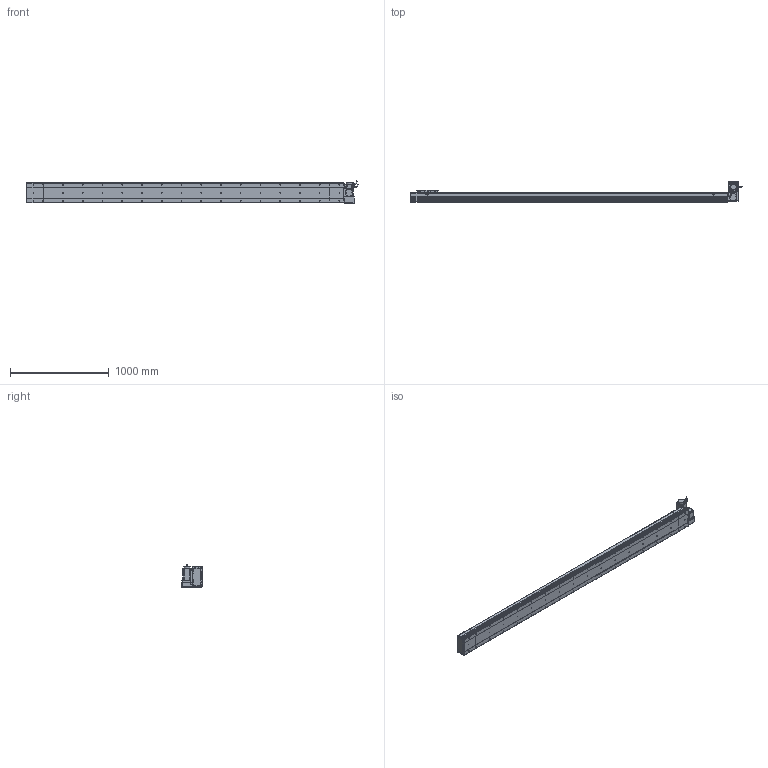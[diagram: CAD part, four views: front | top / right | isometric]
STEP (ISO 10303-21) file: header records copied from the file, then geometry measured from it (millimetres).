
FILE_DESCRIPTION (( 'STEP AP214' ), '1' );
FILE_NAME ('D20 CBH RT S2900.STEP', '2010-06-30T10:32:49', ( 'Conseil Régional Haute-Normandie' ), ( 'Conseil Régional Haute-Normandie' ), 'SwSTEP 2.0', 'SolidWorks 2010', '' );
FILE_SCHEMA (( 'AUTOMOTIVE_DESIGN' ));
Length unit declared in the file: millimetre
Products named in the file (31): Couvercle_Default; Corp Tail D20+100_Default; Plaque De Serrage D20_Default; vis M5 L15_Default; Tail D20+100_Default; Corp D20 S2900_Default; Corp S2900_Default; D20 CBH RT S2900; Couvercle RT_Default; Corp Tail D20 RT_Default; Head RT_Default; Support moteur RT_Default; Plaque De Serrage D20 RT_Default; Plaque de Bout Head D20 RT_Default; corps 90BLDC125A-640; avant 90BLDC125A-640; Moteur motionking 90BLDC125A-640; Conecteur_Default; Conecteur2_Default; codeur 90BLDC125-640; Cache Support Moteur RT_Default; ecrou_Default; vis M5 L30_Default; Chariot D20_Default; Rondelle Cache D20 RT_Default; Couvercle S2900_Default; vis M5 L47_Default; Glissiere_Default; Support Chariot D20_Default; Plaque de Bout Tail D20_Default
Assembly tree (68 placements, depth 4):
  D20 CBH RT S2900
    Corp D20 S2900_Default
      Corp S2900_Default
      Couvercle S2900_Default
    Tail D20+100_Default
      Plaque de Bout Tail D20_Default
      vis M5 L15_Default  x6
      Plaque De Serrage D20_Default
      Corp Tail D20+100_Default
      Couvercle_Default
    Chariot D20_Default
      Support Chariot D20_Default
      vis M5 L15_Default  x8
      Chariot D20_Default
      Glissiere_Default
    Head RT_Default
      Rondelle Cache D20 RT_Default  x3
      ecrou_Default  x4
      vis M5 L47_Default  x4
      Plaque De Serrage D20 RT_Default
      vis M5 L15_Default  x14
      Support moteur RT_Default
      Corp Tail D20 RT_Default
      vis M5 L30_Default  x4
      Cache Support Moteur RT_Default
      Couvercle RT_Default
      Plaque de Bout Head D20 RT_Default
      Moteur motionking 90BLDC125A-640
        Conecteur_Default
        Conecteur2_Default
        corps 90BLDC125A-640
        codeur 90BLDC125-640
        avant 90BLDC125A-640
Bounding box: 3364.45 x 206.5 x 229.7 mm (x, y, z)
Volume: 22609589.8 mm3; surface area: 4353878.8 mm2
Topology: 105 solids, 105 shells, 3865 faces, 9606 edges, 6238 vertices
Faces by surface type: plane 2146, bspline 806, cylinder 742, torus 95, cone 72, sphere 4
Entity records: 160790 total; most frequent: CARTESIAN_POINT 82541, ORIENTED_EDGE 15480, DIRECTION 11878, EDGE_CURVE 7740, VERTEX_POINT 5122, VECTOR 4984, LINE 4984, AXIS2_PLACEMENT_3D 3447
